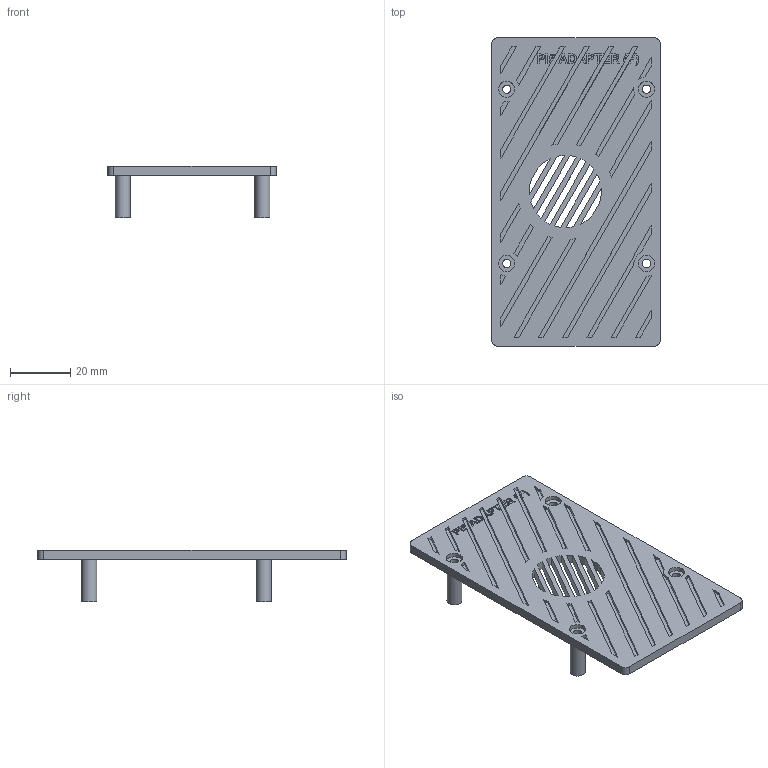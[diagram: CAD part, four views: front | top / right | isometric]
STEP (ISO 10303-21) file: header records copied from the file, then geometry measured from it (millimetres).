
FILE_DESCRIPTION(('Open CASCADE Model'),'2;1');
FILE_NAME('Open CASCADE Shape Model','2026-10-27T22:06:25',('Author'),( 'Open CASCADE'),'Open CASCADE STEP processor 7.9','Open CASCADE 7.9' ,'Unknown');
FILE_SCHEMA(('AUTOMOTIVE_DESIGN { 1 0 10303 214 1 1 1 1 }'));
Length unit declared in the file: millimetre
Products named in the file (1): Open CASCADE STEP translator 7.9 2
Bounding box: 56 x 102.6 x 17.3 mm (x, y, z)
Volume: 16342.9 mm3; surface area: 15442.4 mm2
Topology: 1 solids, 1 shells, 364 faces, 963 edges, 642 vertices
Faces by surface type: plane 234, extrusion 83, cylinder 47
Full cylindrical faces by diameter (mm): 2.8 x4, 5 x4, 5.4 x4
Entity records: 23630 total; most frequent: CARTESIAN_POINT 5784, DIRECTION 2694, VECTOR 1928, ORIENTED_EDGE 1926, PCURVE 1926, DEFINITIONAL_REPRESENTATION 1926, LINE 1845, EDGE_CURVE 963
